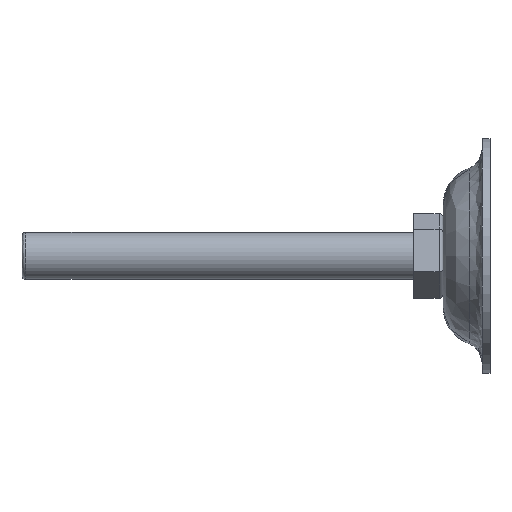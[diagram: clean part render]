
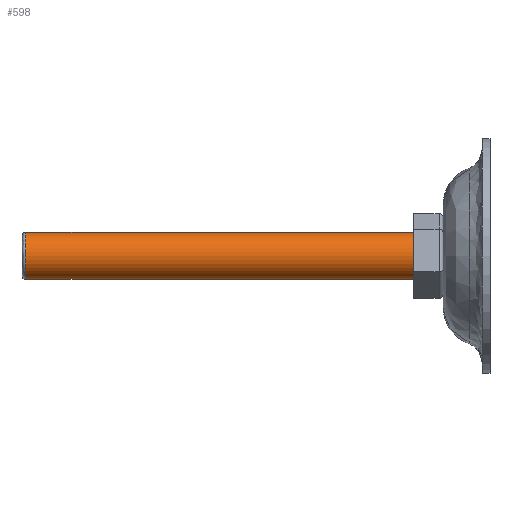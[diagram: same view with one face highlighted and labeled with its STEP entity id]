
A CAD part, left-side view. The second image highlights one B-rep face of the part: STEP entity #598.
In plain terms, the highlighted cylindrical face has radius 6 mm (diameter 12 mm), a partial arc.
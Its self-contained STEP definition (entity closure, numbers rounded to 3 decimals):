
#12 = DIRECTION ( 'NONE',  ( 0., 0., -1. ) ) ;
#39 = DIRECTION ( 'NONE',  ( 0., -1., 0. ) ) ;
#64 = CARTESIAN_POINT ( 'NONE',  ( 0., 106.5, -6. ) ) ;
#136 = DIRECTION ( 'NONE',  ( 0., 1., 0. ) ) ;
#170 = EDGE_CURVE ( 'NONE', #894, #703, #1905, .T. ) ;
#207 = ORIENTED_EDGE ( 'NONE', *, *, #1651, .T. ) ;
#284 = AXIS2_PLACEMENT_3D ( 'NONE', #1561, #388, #2357 ) ;
#322 = CARTESIAN_POINT ( 'NONE',  ( 0., 7.5, 6. ) ) ;
#388 = DIRECTION ( 'NONE',  ( 0., -1., 0. ) ) ;
#441 = CARTESIAN_POINT ( 'NONE',  ( 0., 107.5, -6. ) ) ;
#533 = CARTESIAN_POINT ( 'NONE',  ( 0., 106.5, 6. ) ) ;
#594 = CARTESIAN_POINT ( 'NONE',  ( 0., 7.5, -6. ) ) ;
#598 = ADVANCED_FACE ( 'NONE', ( #1606 ), #1085, .T. ) ;
#703 = VERTEX_POINT ( 'NONE', #64 ) ;
#748 = LINE ( 'NONE', #441, #1796 ) ;
#844 = CARTESIAN_POINT ( 'NONE',  ( 0., 107.5, 6. ) ) ;
#894 = VERTEX_POINT ( 'NONE', #533 ) ;
#923 = AXIS2_PLACEMENT_3D ( 'NONE', #1546, #136, #12 ) ;
#954 = DIRECTION ( 'NONE',  ( 0., -1., 0. ) ) ;
#1066 = VECTOR ( 'NONE', #1364, 1000. ) ;
#1085 = CYLINDRICAL_SURFACE ( 'NONE', #284, 6. ) ;
#1232 = ORIENTED_EDGE ( 'NONE', *, *, #2379, .T. ) ;
#1345 = ORIENTED_EDGE ( 'NONE', *, *, #1397, .F. ) ;
#1364 = DIRECTION ( 'NONE',  ( 0., -1., 0. ) ) ;
#1397 = EDGE_CURVE ( 'NONE', #894, #1942, #2061, .T. ) ;
#1484 = EDGE_LOOP ( 'NONE', ( #1345, #1684, #1232, #207 ) ) ;
#1546 = CARTESIAN_POINT ( 'NONE',  ( 0., 7.5, 0. ) ) ;
#1561 = CARTESIAN_POINT ( 'NONE',  ( 0., 107.5, 0. ) ) ;
#1606 = FACE_OUTER_BOUND ( 'NONE', #1484, .T. ) ;
#1651 = EDGE_CURVE ( 'NONE', #2340, #1942, #1727, .T. ) ;
#1684 = ORIENTED_EDGE ( 'NONE', *, *, #170, .T. ) ;
#1727 = CIRCLE ( 'NONE', #923, 6. ) ;
#1796 = VECTOR ( 'NONE', #39, 1000. ) ;
#1905 = CIRCLE ( 'NONE', #2278, 6. ) ;
#1942 = VERTEX_POINT ( 'NONE', #322 ) ;
#2061 = LINE ( 'NONE', #844, #1066 ) ;
#2139 = CARTESIAN_POINT ( 'NONE',  ( 0., 106.5, 0. ) ) ;
#2278 = AXIS2_PLACEMENT_3D ( 'NONE', #2139, #954, #2338 ) ;
#2338 = DIRECTION ( 'NONE',  ( 0., 0., -1. ) ) ;
#2340 = VERTEX_POINT ( 'NONE', #594 ) ;
#2357 = DIRECTION ( 'NONE',  ( 0., 0., -1. ) ) ;
#2379 = EDGE_CURVE ( 'NONE', #703, #2340, #748, .T. ) ;
